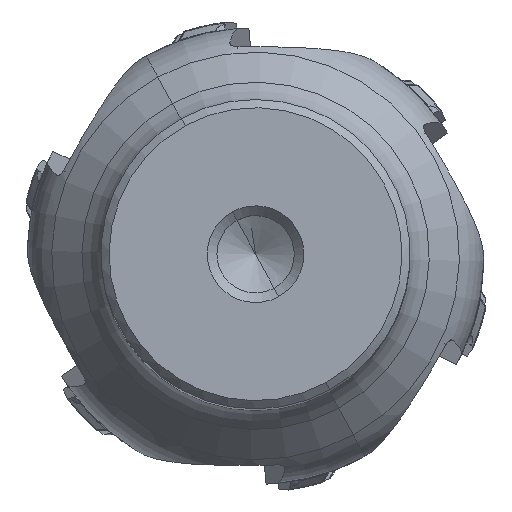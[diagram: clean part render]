
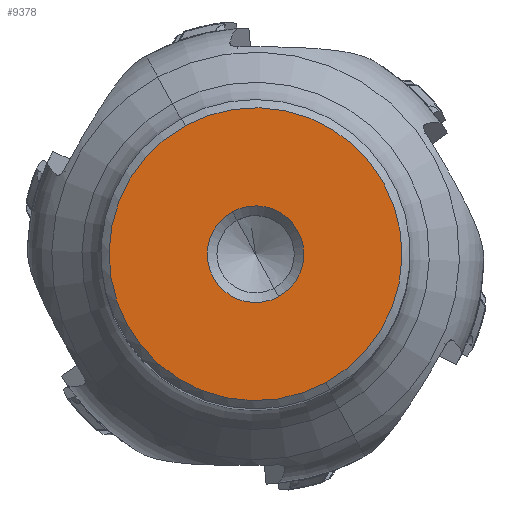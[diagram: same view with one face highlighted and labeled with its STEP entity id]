
A CAD part, top view. The second image highlights one B-rep face of the part: STEP entity #9378.
In plain terms, the highlighted planar face has unit normal (0, 0, 1).
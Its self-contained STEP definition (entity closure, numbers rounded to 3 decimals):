
#9320=AXIS2_PLACEMENT_3D('Circle Axis2P3D',#9318,#9319,$) ;
#9340=AXIS2_PLACEMENT_3D('Circle Axis2P3D',#9338,#9339,$) ;
#9354=AXIS2_PLACEMENT_3D('Plane Axis2P3D',#9351,#9352,#9353) ;
#9362=AXIS2_PLACEMENT_3D('Circle Axis2P3D',#9360,#9361,$) ;
#9371=AXIS2_PLACEMENT_3D('Circle Axis2P3D',#9369,#9370,$) ;
#9315=CARTESIAN_POINT('Vertex',(-7.263,13.295,60.)) ;
#9318=CARTESIAN_POINT('Axis2P3D Location',(0.,0.,60.)) ;
#9322=CARTESIAN_POINT('Vertex',(7.263,-13.295,60.)) ;
#9338=CARTESIAN_POINT('Axis2P3D Location',(0.,0.,60.)) ;
#9351=CARTESIAN_POINT('Axis2P3D Location',(0.,15.15,60.)) ;
#9360=CARTESIAN_POINT('Axis2P3D Location',(0.,0.,60.)) ;
#9364=CARTESIAN_POINT('Vertex',(-2.397,4.388,60.)) ;
#9366=CARTESIAN_POINT('Vertex',(2.397,-4.388,60.)) ;
#9369=CARTESIAN_POINT('Axis2P3D Location',(0.,0.,60.)) ;
#9319=DIRECTION('Axis2P3D Direction',(0.,0.,-1.)) ;
#9339=DIRECTION('Axis2P3D Direction',(0.,0.,-1.)) ;
#9352=DIRECTION('Axis2P3D Direction',(-0.,0.,1.)) ;
#9353=DIRECTION('Axis2P3D XDirection',(0.,-1.,0.)) ;
#9361=DIRECTION('Axis2P3D Direction',(-0.,0.,1.)) ;
#9370=DIRECTION('Axis2P3D Direction',(-0.,0.,1.)) ;
#9357=ORIENTED_EDGE('',*,*,#9324,.T.) ;
#9358=ORIENTED_EDGE('',*,*,#9342,.T.) ;
#9375=ORIENTED_EDGE('',*,*,#9368,.F.) ;
#9376=ORIENTED_EDGE('',*,*,#9373,.F.) ;
#9377=FACE_BOUND('',#9374,.T.) ;
#9378=ADVANCED_FACE('NOCUT',(#9359,#9377),#9355,.T.) ;
#9321=CIRCLE('generated circle',#9320,15.15) ;
#9341=CIRCLE('generated circle',#9340,15.15) ;
#9363=CIRCLE('generated circle',#9362,5.) ;
#9372=CIRCLE('generated circle',#9371,5.) ;
#9324=EDGE_CURVE('',#9323,#9316,#9321,.F.) ;
#9342=EDGE_CURVE('',#9316,#9323,#9341,.F.) ;
#9368=EDGE_CURVE('',#9365,#9367,#9363,.T.) ;
#9373=EDGE_CURVE('',#9367,#9365,#9372,.T.) ;
#9356=EDGE_LOOP('',(#9357,#9358)) ;
#9374=EDGE_LOOP('',(#9375,#9376)) ;
#9359=FACE_OUTER_BOUND('',#9356,.T.) ;
#9355=PLANE('',#9354) ;
#9316=VERTEX_POINT('',#9315) ;
#9323=VERTEX_POINT('',#9322) ;
#9365=VERTEX_POINT('',#9364) ;
#9367=VERTEX_POINT('',#9366) ;
